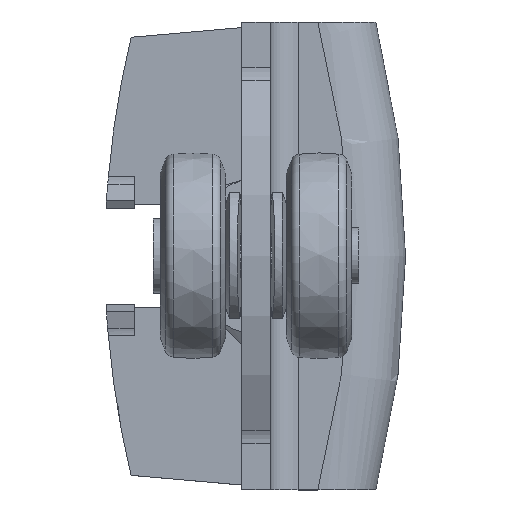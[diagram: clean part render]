
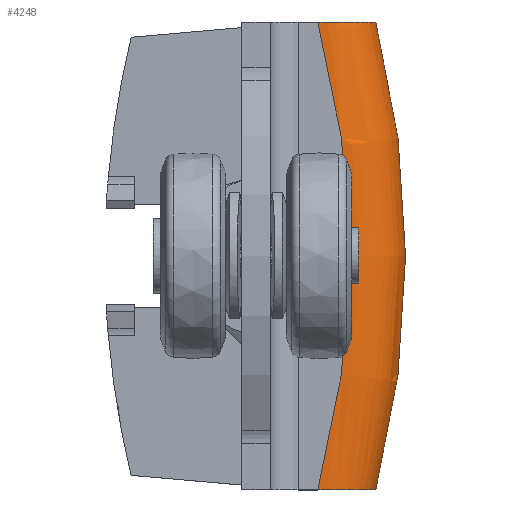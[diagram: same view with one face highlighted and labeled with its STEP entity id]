
A CAD part, top view. The second image highlights one B-rep face of the part: STEP entity #4248.
In plain terms, the highlighted toroidal (fillet/blend) face has major radius 94 mm and minor radius 6 mm.
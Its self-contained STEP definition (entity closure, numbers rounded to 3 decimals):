
#138=TOROIDAL_SURFACE('',#4680,94.,6.);
#150=B_SPLINE_CURVE_WITH_KNOTS('',3,(#7123,#7124,#7125,#7126,#7127,#7128,
#7129,#7130,#7131,#7132,#7133,#7134,#7135,#7136,#7137,#7138,#7139,#7140),
 .UNSPECIFIED.,.F.,.F.,(4,2,2,2,2,2,2,2,4),(0.,0.11,0.22,
0.331,0.443,0.557,0.671,0.788,
0.904),.UNSPECIFIED.);
#153=B_SPLINE_CURVE_WITH_KNOTS('',3,(#7186,#7187,#7188,#7189,#7190,#7191,
#7192,#7193,#7194,#7195,#7196,#7197,#7198,#7199,#7200,#7201,#7202,#7203),
 .UNSPECIFIED.,.F.,.F.,(4,2,2,2,2,2,2,2,4),(-0.904,-0.788,
-0.671,-0.557,-0.443,-0.331,
-0.22,-0.11,0.),.UNSPECIFIED.);
#205=CIRCLE('',#4679,100.);
#206=CIRCLE('',#4681,94.);
#571=FACE_OUTER_BOUND('',#815,.T.);
#815=EDGE_LOOP('',(#3070,#3071,#3072,#3073));
#1802=VERTEX_POINT('',#7120);
#1803=VERTEX_POINT('',#7122);
#1807=VERTEX_POINT('',#7183);
#1808=VERTEX_POINT('',#7185);
#2277=EDGE_CURVE('',#1803,#1802,#150,.T.);
#2283=EDGE_CURVE('',#1808,#1807,#153,.T.);
#2292=EDGE_CURVE('',#1807,#1803,#205,.T.);
#2293=EDGE_CURVE('',#1808,#1802,#206,.T.);
#3070=ORIENTED_EDGE('',*,*,#2283,.T.);
#3071=ORIENTED_EDGE('',*,*,#2292,.T.);
#3072=ORIENTED_EDGE('',*,*,#2277,.T.);
#3073=ORIENTED_EDGE('',*,*,#2293,.F.);
#4248=ADVANCED_FACE('',(#571),#138,.T.);
#4679=AXIS2_PLACEMENT_3D('',#7237,#5389,#5390);
#4680=AXIS2_PLACEMENT_3D('',#7238,#5391,#5392);
#4681=AXIS2_PLACEMENT_3D('',#7239,#5393,#5394);
#5389=DIRECTION('center_axis',(0.,0.,1.));
#5390=DIRECTION('ref_axis',(0.707,-0.707,0.));
#5391=DIRECTION('center_axis',(0.,0.,1.));
#5392=DIRECTION('ref_axis',(0.707,-0.707,0.));
#5393=DIRECTION('center_axis',(0.,0.,1.));
#5394=DIRECTION('ref_axis',(0.707,-0.707,0.));
#7120=CARTESIAN_POINT('',(6.615,25.,18.));
#7122=CARTESIAN_POINT('',(12.825,25.,12.));
#7123=CARTESIAN_POINT('Ctrl Pts',(12.825,25.,12.));
#7124=CARTESIAN_POINT('Ctrl Pts',(12.825,25.,12.366));
#7125=CARTESIAN_POINT('Ctrl Pts',(12.788,25.,12.766));
#7126=CARTESIAN_POINT('Ctrl Pts',(12.629,25.,13.549));
#7127=CARTESIAN_POINT('Ctrl Pts',(12.507,25.,13.931));
#7128=CARTESIAN_POINT('Ctrl Pts',(12.22,25.,14.612));
#7129=CARTESIAN_POINT('Ctrl Pts',(12.027,25.,14.972));
#7130=CARTESIAN_POINT('Ctrl Pts',(11.569,25.,15.642));
#7131=CARTESIAN_POINT('Ctrl Pts',(11.304,25.,15.953));
#7132=CARTESIAN_POINT('Ctrl Pts',(10.766,25.,16.48));
#7133=CARTESIAN_POINT('Ctrl Pts',(10.443,25.,16.744));
#7134=CARTESIAN_POINT('Ctrl Pts',(9.748,25.,17.198));
#7135=CARTESIAN_POINT('Ctrl Pts',(9.377,25.,17.388));
#7136=CARTESIAN_POINT('Ctrl Pts',(8.665,25.,17.677));
#7137=CARTESIAN_POINT('Ctrl Pts',(8.258,25.,17.801));
#7138=CARTESIAN_POINT('Ctrl Pts',(7.427,25.,17.963));
#7139=CARTESIAN_POINT('Ctrl Pts',(7.003,25.,18.));
#7140=CARTESIAN_POINT('Ctrl Pts',(6.615,25.,18.));
#7183=CARTESIAN_POINT('',(12.825,-25.,12.));
#7185=CARTESIAN_POINT('',(6.615,-25.,18.));
#7186=CARTESIAN_POINT('Ctrl Pts',(6.615,-25.,18.));
#7187=CARTESIAN_POINT('Ctrl Pts',(7.003,-25.,18.));
#7188=CARTESIAN_POINT('Ctrl Pts',(7.427,-25.,17.963));
#7189=CARTESIAN_POINT('Ctrl Pts',(8.258,-25.,17.801));
#7190=CARTESIAN_POINT('Ctrl Pts',(8.665,-25.,17.677));
#7191=CARTESIAN_POINT('Ctrl Pts',(9.377,-25.,17.388));
#7192=CARTESIAN_POINT('Ctrl Pts',(9.748,-25.,17.198));
#7193=CARTESIAN_POINT('Ctrl Pts',(10.443,-25.,16.744));
#7194=CARTESIAN_POINT('Ctrl Pts',(10.766,-25.,16.48));
#7195=CARTESIAN_POINT('Ctrl Pts',(11.304,-25.,15.953));
#7196=CARTESIAN_POINT('Ctrl Pts',(11.569,-25.,15.642));
#7197=CARTESIAN_POINT('Ctrl Pts',(12.027,-25.,14.972));
#7198=CARTESIAN_POINT('Ctrl Pts',(12.22,-25.,14.612));
#7199=CARTESIAN_POINT('Ctrl Pts',(12.507,-25.,13.931));
#7200=CARTESIAN_POINT('Ctrl Pts',(12.629,-25.,13.549));
#7201=CARTESIAN_POINT('Ctrl Pts',(12.788,-25.,12.766));
#7202=CARTESIAN_POINT('Ctrl Pts',(12.825,-25.,12.366));
#7203=CARTESIAN_POINT('Ctrl Pts',(12.825,-25.,12.));
#7237=CARTESIAN_POINT('Origin',(-84.,0.,12.));
#7238=CARTESIAN_POINT('Origin',(-84.,0.,12.));
#7239=CARTESIAN_POINT('Origin',(-84.,0.,18.));
